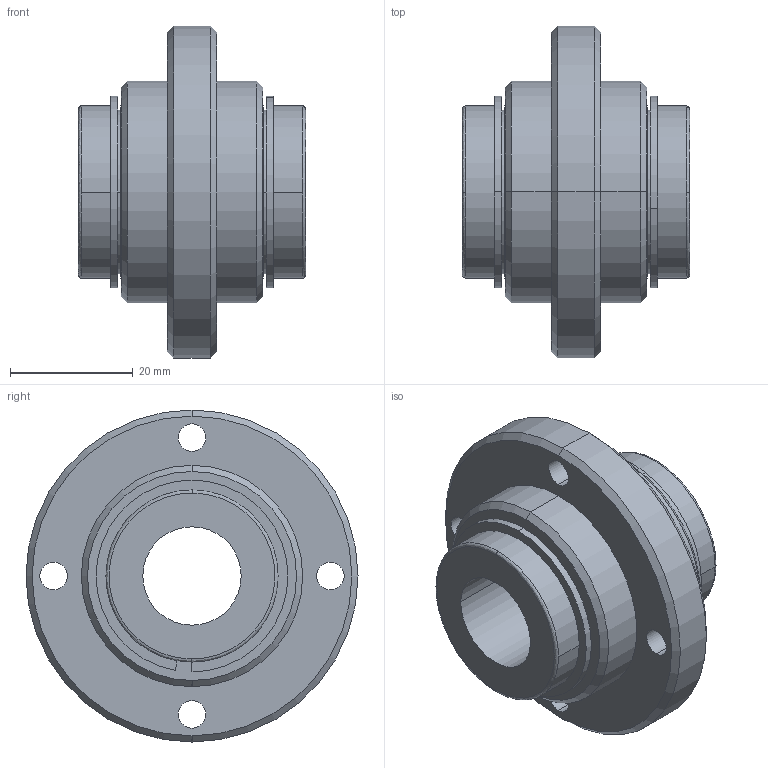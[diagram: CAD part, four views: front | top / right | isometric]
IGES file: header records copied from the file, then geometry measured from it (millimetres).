
Start section: 3D InterOp IGES (Version 21 0 1), Spatial Corp. Copyright (c) 1999-2007.
Global section: file name: PNCD-16VUU.igs; native system: Spatial Corp.; preprocessor: 3D InterOp GENERIC/IGES 3.0; author: Noname; organization: Noname; date: 20220207.092827; units: millimetre
Bounding box: 37 x 54 x 54 mm (x, y, z)
Surface area: 15792.8 mm2 (no closed solid volume)
Topology: 0 solids, 0 shells, 66 faces, 300 edges, 300 vertices
Faces by surface type: revolution 48, extrusion 18
